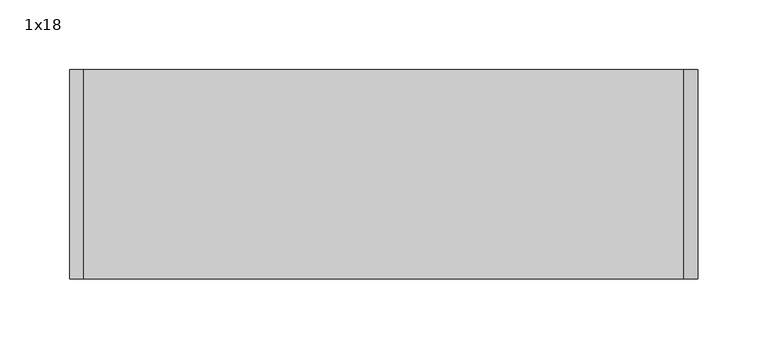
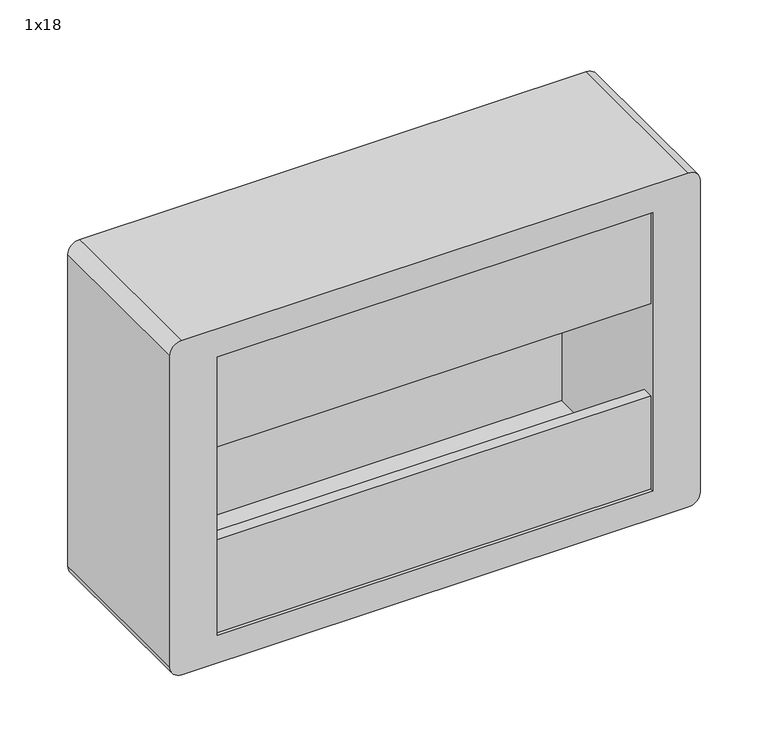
"""IFC4 building model written with IfcOpenShell, lengths in millimetres: proxy geometry, E_Distribution Panel_MEPcontent_Legrand_XL3 125_Wall Mounting_INT-EN : 1x18."""

from ifc_helpers import new_model, si_unit, frame, origin, place, context, project, spatial, polyline, circle_curve, outline, extrude, source, transform, mapped, element, save
from ifc_brep_helpers import plane_surface, cylinder_surface, advanced_brep


def proxy_1x18_3bd5b200(model_context):
    return source(origin(), model_context, "Body", "SolidModel", [
        extrude(outline(polyline([(185.0, -147.0), (-185.0, -147.0), (-185.0, -137.0), (185.0, -137.0), (185.0, -147.0)])), frame((0.0, 0.0, 25.0), z_axis=(0.0, 0.0, 1.0), x_axis=(1.0, 0.0, 0.0)), (0.0, 0.0, 1.0), 83.3333333),
        extrude(outline(polyline([(185.0, -147.0), (-185.0, -147.0), (-185.0, -137.0), (185.0, -137.0), (185.0, -147.0)])), frame((0.0, 0.0, 191.6666667), z_axis=(0.0, 0.0, 1.0), x_axis=(1.0, 0.0, 0.0)), (0.0, 0.0, 1.0), 83.3333333),
        extrude(outline(polyline([(185.0, -16.2), (-185.0, -16.2), (-185.0, -10.0), (185.0, -10.0), (185.0, -16.2)])), frame((0.0, 0.0, 25.0), z_axis=(0.0, 0.0, 1.0), x_axis=(1.0, 0.0, 0.0)), (0.0, 0.0, 1.0), 250.0),
        advanced_brep(
        [(225.0, -150.0, 290.0), (215.0, -150.0, 300.0), (-215.0, -150.0, 300.0), (-225.0, -150.0, 290.0), (-225.0, -150.0, 10.0), (-215.0, -150.0, 0.0), (215.0, -150.0, 0.0), (225.0, -150.0, 10.0), (-185.0, -150.0, 25.0), (-185.0, -150.0, 275.0), (185.0, -150.0, 275.0), (185.0, -150.0, 25.0), (225.0, 0.0, 290.0), (225.0, 0.0, 10.0), (215.0, 0.0, 0.0), (-215.0, 0.0, 0.0), (-225.0, 0.0, 10.0), (-225.0, 0.0, 290.0), (-215.0, 0.0, 300.0), (215.0, 0.0, 300.0), (225.0, -10.0, 290.0), (215.0, -10.0, 300.0), (-215.0, -10.0, 300.0), (-225.0, -10.0, 290.0), (-225.0, -10.0, 10.0), (-215.0, -10.0, 0.0), (215.0, -10.0, 0.0), (225.0, -10.0, 10.0), (-185.0, -10.0, 25.0), (-185.0, -10.0, 275.0), (185.0, -10.0, 275.0), (185.0, -10.0, 25.0)],
        [
            (0, 1, circle_curve(frame((215.0, -150.0, 290.0), z_axis=(0.0, -1.0, 0.0), x_axis=(1.0, 0.0, 0.0)), 10.0)),
            (1, 2),
            (2, 3, circle_curve(frame((-215.0, -150.0, 290.0), z_axis=(0.0, -1.0, 0.0), x_axis=(1.0, 0.0, 0.0)), 10.0)),
            (3, 4),
            (4, 5, circle_curve(frame((-215.0, -150.0, 10.0), z_axis=(0.0, -1.0, 0.0), x_axis=(1.0, 0.0, 0.0)), 10.0)),
            (5, 6),
            (6, 7, circle_curve(frame((215.0, -150.0, 10.0), z_axis=(0.0, -1.0, 0.0), x_axis=(1.0, 0.0, 0.0)), 10.0)),
            (7, 0),
            (8, 9),
            (9, 10),
            (10, 11),
            (11, 8),
            (12, 13),
            (13, 14, circle_curve(frame((215.0, 0.0, 10.0), z_axis=(0.0, 1.0, 0.0), x_axis=(1.0, 0.0, 0.0)), 10.0)),
            (14, 15),
            (15, 16, circle_curve(frame((-215.0, 0.0, 10.0), z_axis=(0.0, 1.0, 0.0), x_axis=(1.0, 0.0, 0.0)), 10.0)),
            (16, 17),
            (17, 18, circle_curve(frame((-215.0, 0.0, 290.0), z_axis=(0.0, 1.0, 0.0), x_axis=(1.0, 0.0, 0.0)), 10.0)),
            (18, 19),
            (19, 12, circle_curve(frame((215.0, 0.0, 290.0), z_axis=(0.0, 1.0, 0.0), x_axis=(1.0, 0.0, 0.0)), 10.0)),
            (0, 20),
            (20, 12),
            (19, 21),
            (21, 1),
            (18, 22),
            (22, 2),
            (17, 23),
            (23, 3),
            (16, 24),
            (24, 4),
            (15, 25),
            (25, 5),
            (14, 26),
            (26, 6),
            (13, 27),
            (27, 7),
            (8, 28),
            (28, 29),
            (29, 9),
            (29, 30),
            (30, 10),
            (30, 31),
            (31, 11),
            (31, 28),
        ],
        [
            plane_surface(frame((225.0, -150.0, 290.0), z_axis=(0.0, -1.0, 0.0), x_axis=(0.0, 0.0, 1.0))),
            plane_surface(frame((225.0, 0.0, 290.0), z_axis=(0.0, 1.0, 0.0), x_axis=(0.0, 0.0, -1.0))),
            cylinder_surface(frame((215.0, 0.0, 290.0), z_axis=(0.0, -1.0, 0.0), x_axis=(1.0, 0.0, 0.0)), 10.0),
            plane_surface(frame((215.0, -150.0, 300.0), z_axis=(0.0, 0.0, 1.0), x_axis=(0.0, 1.0, 0.0))),
            cylinder_surface(frame((-215.0, 0.0, 290.0), z_axis=(0.0, -1.0, 0.0), x_axis=(1.0, 0.0, 0.0)), 10.0),
            plane_surface(frame((-225.0, -150.0, 290.0), z_axis=(-1.0, 0.0, 0.0), x_axis=(0.0, 1.0, 0.0))),
            cylinder_surface(frame((-215.0, 0.0, 10.0), z_axis=(0.0, -1.0, 0.0), x_axis=(1.0, 0.0, 0.0)), 10.0),
            plane_surface(frame((-215.0, -150.0, 0.0), z_axis=(0.0, 0.0, -1.0), x_axis=(0.0, 1.0, 0.0))),
            cylinder_surface(frame((215.0, 0.0, 10.0), z_axis=(0.0, -1.0, 0.0), x_axis=(1.0, 0.0, 0.0)), 10.0),
            plane_surface(frame((225.0, -150.0, 10.0), z_axis=(1.0, 0.0, 0.0), x_axis=(0.0, 1.0, 0.0))),
            plane_surface(frame((-185.0, -150.0, 25.0), z_axis=(1.0, 0.0, 0.0), x_axis=(0.0, 1.0, 0.0))),
            plane_surface(frame((-185.0, -150.0, 275.0), z_axis=(0.0, 0.0, -1.0), x_axis=(0.0, 1.0, 0.0))),
            plane_surface(frame((185.0, -150.0, 275.0), z_axis=(-1.0, 0.0, 0.0), x_axis=(0.0, 1.0, 0.0))),
            plane_surface(frame((185.0, -150.0, 25.0), z_axis=(0.0, 0.0, 1.0), x_axis=(0.0, 1.0, 0.0))),
            plane_surface(frame((-215.0, -10.0, 300.0), z_axis=(0.0, -1.0, 0.0), x_axis=(-1.0, 0.0, 0.0))),
        ],
        [
            (0, [[1, 2, 3, 4, 5, 6, 7, 8], [9, 10, 11, 12]]),
            (1, [[13, 14, 15, 16, 17, 18, 19, 20]]),
            (2, [[-1, 21, 22, -20, 23, 24]]),
            (3, [[-2, -24, -23, -19, 25, 26]]),
            (4, [[-3, -26, -25, -18, 27, 28]]),
            (5, [[-4, -28, -27, -17, 29, 30]]),
            (6, [[-5, -30, -29, -16, 31, 32]]),
            (7, [[-6, -32, -31, -15, 33, 34]]),
            (8, [[-7, -34, -33, -14, 35, 36]]),
            (9, [[-8, -36, -35, -13, -22, -21]]),
            (10, [[-9, 37, 38, 39]]),
            (11, [[-10, -39, 40, 41]]),
            (12, [[-11, -41, 42, 43]]),
            (13, [[-12, -43, 44, -37]]),
            (14, [[-38, -44, -42, -40]]),
        ],
    ),
    ])


if __name__ == "__main__":
    model = new_model("IFC4")
    model_context = context("Model", 3, world=origin())
    ifc_project = project(units=[si_unit("LENGTHUNIT", "METRE", prefix="MILLI")], contexts=[model_context])
    site = spatial("IfcSite", under=ifc_project)
    building = spatial("IfcBuilding", under=site)
    placement = place(None, origin())
    proxy_1x18_shape = proxy_1x18_3bd5b200(model_context)
    element("IfcBuildingElementProxy", 1, Name="E_Distribution Panel_MEPcontent_Legrand_XL3 125_Wall Mounting_INT-EN : 1x18", ObjectType="E_Distribution Panel_MEPcontent_Legrand_XL3 125_Wall Mounting_INT-EN : 1x18", at=placement, inside=building, context=model_context, shape_type="MappedRepresentation", body=[
        mapped(proxy_1x18_shape, transform((0.0, 0.0, 0.0), x_axis=(1.0, 0.0, 0.0), y_axis=(0.0, 1.0, 0.0), z_axis=(0.0, 0.0, 1.0))),
    ])
    save(model, "model.ifc")
